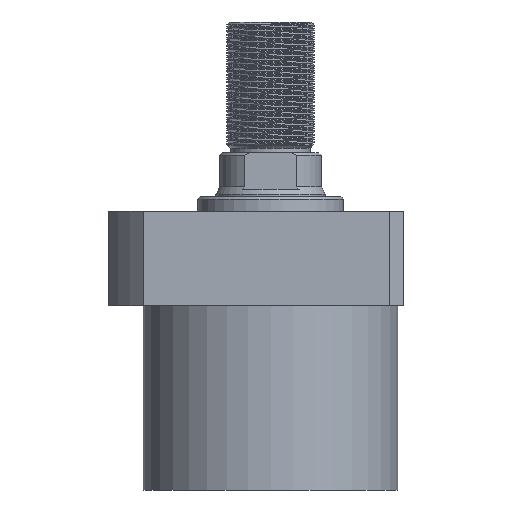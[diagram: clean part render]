
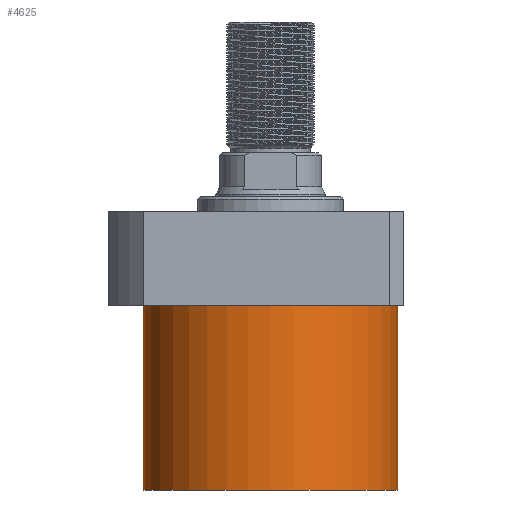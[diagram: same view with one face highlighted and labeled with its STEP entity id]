
A CAD part, front view. The second image highlights one B-rep face of the part: STEP entity #4625.
In plain terms, the highlighted cylindrical face has radius 52.5 mm (diameter 105 mm), a partial arc.
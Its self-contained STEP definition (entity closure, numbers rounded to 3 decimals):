
#345 = CARTESIAN_POINT ( 'NONE',  ( 52.5, 0., -19.5 ) ) ;
#522 = DIRECTION ( 'NONE',  ( 0., 0., -1. ) ) ;
#583 = DIRECTION ( 'NONE',  ( 1., 0., 0. ) ) ;
#738 = VERTEX_POINT ( 'NONE', #5578 ) ;
#742 = DIRECTION ( 'NONE',  ( 0., 0., 1. ) ) ;
#886 = CARTESIAN_POINT ( 'NONE',  ( 52.5, 0., -95.5 ) ) ;
#1384 = LINE ( 'NONE', #6291, #6131 ) ;
#1609 = DIRECTION ( 'NONE',  ( 0., 0., 1. ) ) ;
#2189 = CYLINDRICAL_SURFACE ( 'NONE', #5285, 52.5 ) ;
#2278 = DIRECTION ( 'NONE',  ( 1., 0., 0. ) ) ;
#2360 = CIRCLE ( 'NONE', #7296, 52.5 ) ;
#2586 = VERTEX_POINT ( 'NONE', #6668 ) ;
#2688 = ORIENTED_EDGE ( 'NONE', *, *, #3088, .F. ) ;
#2745 = CIRCLE ( 'NONE', #3293, 52.5 ) ;
#2887 = ORIENTED_EDGE ( 'NONE', *, *, #3792, .T. ) ;
#3088 = EDGE_CURVE ( 'NONE', #7730, #738, #2360, .T. ) ;
#3293 = AXIS2_PLACEMENT_3D ( 'NONE', #8011, #4275, #583 ) ;
#3326 = EDGE_CURVE ( 'NONE', #738, #2586, #1384, .T. ) ;
#3481 = VERTEX_POINT ( 'NONE', #345 ) ;
#3792 = EDGE_CURVE ( 'NONE', #3481, #2586, #2745, .T. ) ;
#4230 = CARTESIAN_POINT ( 'NONE',  ( 0., 0., -95.5 ) ) ;
#4275 = DIRECTION ( 'NONE',  ( 0., 0., -1. ) ) ;
#4625 = ADVANCED_FACE ( 'NONE', ( #5667 ), #2189, .T. ) ;
#4666 = EDGE_LOOP ( 'NONE', ( #5303, #2688, #6265, #2887 ) ) ;
#4848 = DIRECTION ( 'NONE',  ( -1., 0., 0. ) ) ;
#5285 = AXIS2_PLACEMENT_3D ( 'NONE', #6614, #7236, #2278 ) ;
#5303 = ORIENTED_EDGE ( 'NONE', *, *, #3326, .F. ) ;
#5578 = CARTESIAN_POINT ( 'NONE',  ( -52.5, 0., -95.5 ) ) ;
#5667 = FACE_OUTER_BOUND ( 'NONE', #4666, .T. ) ;
#5739 = EDGE_CURVE ( 'NONE', #7730, #3481, #5954, .T. ) ;
#5954 = LINE ( 'NONE', #6570, #6344 ) ;
#6131 = VECTOR ( 'NONE', #742, 1000. ) ;
#6265 = ORIENTED_EDGE ( 'NONE', *, *, #5739, .T. ) ;
#6291 = CARTESIAN_POINT ( 'NONE',  ( -52.5, 0., -95.5 ) ) ;
#6344 = VECTOR ( 'NONE', #1609, 1000. ) ;
#6570 = CARTESIAN_POINT ( 'NONE',  ( 52.5, 0., -95.5 ) ) ;
#6614 = CARTESIAN_POINT ( 'NONE',  ( 0., 0., -95.5 ) ) ;
#6668 = CARTESIAN_POINT ( 'NONE',  ( -52.5, 0., -19.5 ) ) ;
#7236 = DIRECTION ( 'NONE',  ( 0., 0., 1. ) ) ;
#7296 = AXIS2_PLACEMENT_3D ( 'NONE', #4230, #522, #4848 ) ;
#7730 = VERTEX_POINT ( 'NONE', #886 ) ;
#8011 = CARTESIAN_POINT ( 'NONE',  ( 0., 0., -19.5 ) ) ;
